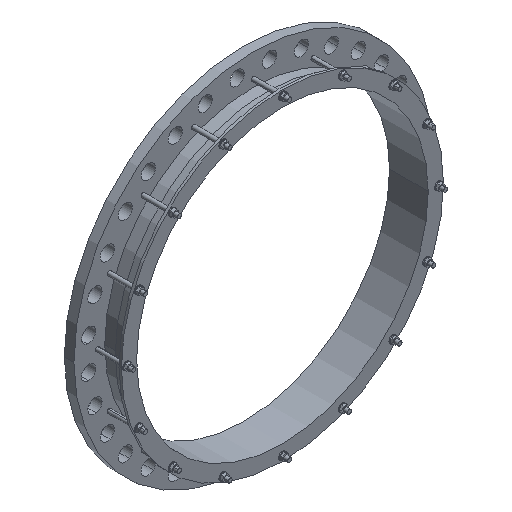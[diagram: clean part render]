
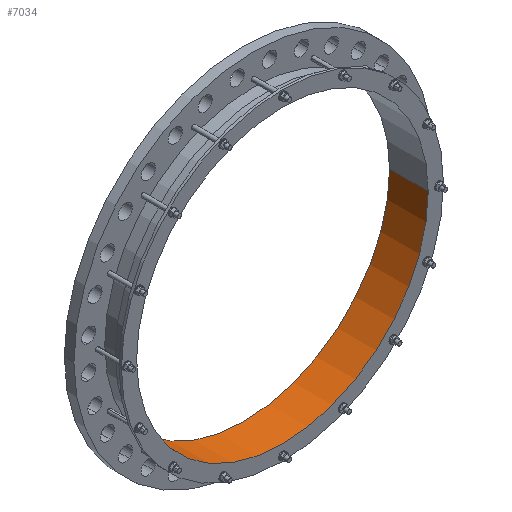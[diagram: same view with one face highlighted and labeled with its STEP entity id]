
A CAD part, isometric view. The second image highlights one B-rep face of the part: STEP entity #7034.
In plain terms, the highlighted cylindrical face has radius 577 mm (diameter 1154 mm), a partial arc.
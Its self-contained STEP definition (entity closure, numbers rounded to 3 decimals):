
#7=CARTESIAN_POINT('',(0.,38.,0.));
#8=DIRECTION('',(0.,1.,0.));
#9=DIRECTION('',(1.,0.,0.));
#10=AXIS2_PLACEMENT_3D('',#7,#8,#9);
#1917=CARTESIAN_POINT('',(0.,-115.,0.));
#1918=DIRECTION('',(0.,1.,0.));
#1919=DIRECTION('',(1.,0.,0.));
#1920=AXIS2_PLACEMENT_3D('',#1917,#1918,#1919);
#1922=DIRECTION('',(0.,1.,0.));
#1923=VECTOR('',#1922,153.);
#1924=CARTESIAN_POINT('',(577.,-115.,0.));
#1925=LINE('',#1924,#1923);
#1926=DIRECTION('',(0.,1.,0.));
#1927=VECTOR('',#1926,153.);
#1928=CARTESIAN_POINT('',(-577.,-115.,0.));
#1929=LINE('',#1928,#1927);
#4876=CARTESIAN_POINT('',(577.,-115.,0.));
#4877=CARTESIAN_POINT('',(577.,38.,0.));
#4878=VERTEX_POINT('',#4876);
#4879=VERTEX_POINT('',#4877);
#4888=CARTESIAN_POINT('',(-577.,-115.,0.));
#4889=CARTESIAN_POINT('',(-577.,38.,0.));
#4890=VERTEX_POINT('',#4888);
#4891=VERTEX_POINT('',#4889);
#7021=CARTESIAN_POINT('',(0.,-122.65,0.));
#7022=DIRECTION('',(0.,1.,0.));
#7023=DIRECTION('',(-1.,0.,0.));
#7024=AXIS2_PLACEMENT_3D('',#7021,#7022,#7023);
#7025=CYLINDRICAL_SURFACE('',#7024,577.);
#7027=ORIENTED_EDGE('',*,*,#7026,.F.);
#7028=ORIENTED_EDGE('',*,*,#6920,.T.);
#7030=ORIENTED_EDGE('',*,*,#7029,.T.);
#7031=ORIENTED_EDGE('',*,*,#5981,.F.);
#7032=EDGE_LOOP('',(#7027,#7028,#7030,#7031));
#7033=FACE_OUTER_BOUND('',#7032,.F.);
#7034=ADVANCED_FACE('',(#7033),#7025,.F.);
#11=CIRCLE('',#10,577.);
#1921=CIRCLE('',#1920,577.);
#5981=EDGE_CURVE('',#4879,#4891,#11,.T.);
#6920=EDGE_CURVE('',#4878,#4890,#1921,.T.);
#7026=EDGE_CURVE('',#4878,#4879,#1925,.T.);
#7029=EDGE_CURVE('',#4890,#4891,#1929,.T.);
